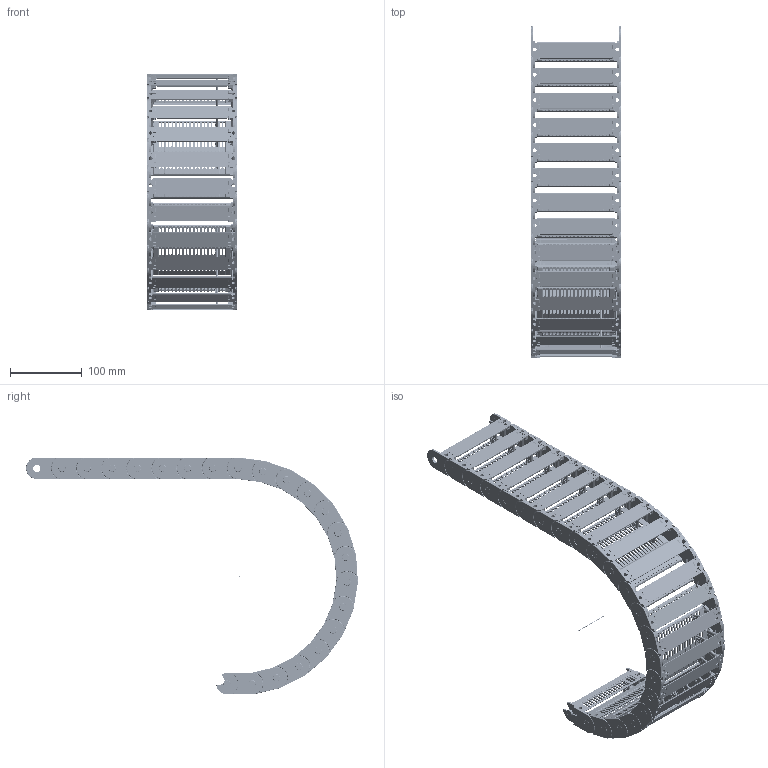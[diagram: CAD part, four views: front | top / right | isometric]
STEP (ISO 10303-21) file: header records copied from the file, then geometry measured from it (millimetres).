
FILE_DESCRIPTION((''),'2;1');
FILE_NAME('C:\Uebbing\PARAMETERKETTEN\KOLIBRI\Kol_30_125_1\Kol 30_125_1_R150.stp','2012-03-05T12:42:06',('Uebbing'),(''),'Autodesk Inventor 10','Autodesk Inventor 10','');
FILE_SCHEMA(('AUTOMOTIVE_DESIGN { 1 0 10303 214 1 1 1 1 }'));
Length unit declared in the file: millimetre
Products named in the file (6): KOLIBRI 30_125_1_PARAMETRISCH; Achse; Kol_30_125_1; PZ 30 Stecksteg; Kol 30_125_1 Lasche; Kol_30_125_0_Klappsteg
Assembly tree (26 placements, depth 3):
  KOLIBRI 30_125_1_PARAMETRISCH
    Achse
    Kol_30_125_1  x22
      PZ 30 Stecksteg
      Kol 30_125_1 Lasche
      Kol_30_125_0_Klappsteg
Bounding box: 125 x 462.02 x 330 mm (x, y, z)
Volume: 493756.6 mm3; surface area: 501257 mm2
Topology: 67 solids, 67 shells, 17163 faces, 48448 edges, 31573 vertices
Faces by surface type: plane 8538, bspline 4092, cylinder 3807, torus 528, cone 132, sphere 66
Full cylindrical faces by diameter (mm): 1 x1, 1.166 x22, 2.048 x22, 2.8 x132, 5.1 x22, 10 x22, 10.1 x22
Entity records: 28441 total; most frequent: CARTESIAN_POINT 8239, ORIENTED_EDGE 4324, DIRECTION 3980, EDGE_CURVE 2162, VECTOR 1442, LINE 1442, VERTEX_POINT 1424, AXIS2_PLACEMENT_3D 1269
